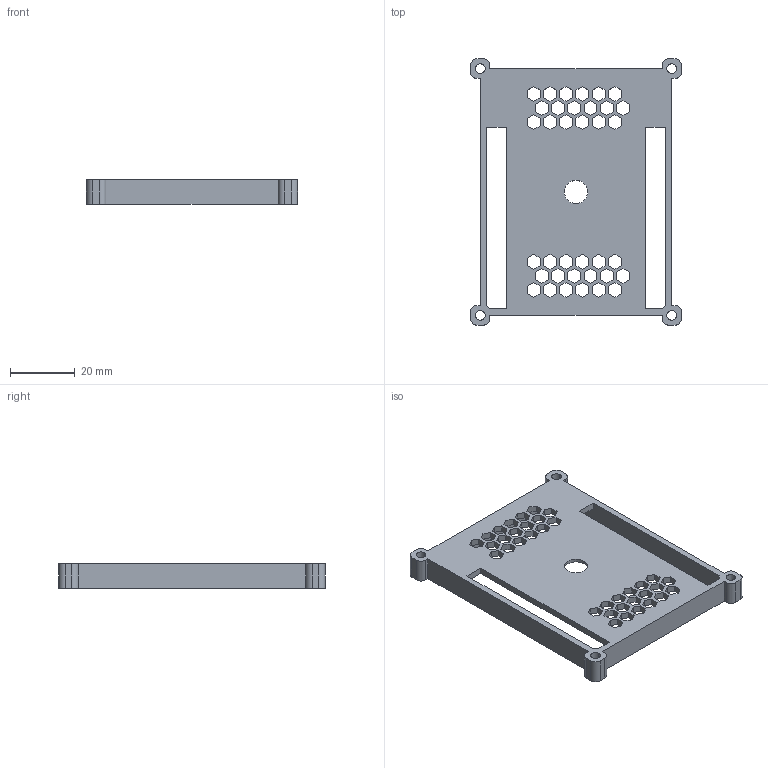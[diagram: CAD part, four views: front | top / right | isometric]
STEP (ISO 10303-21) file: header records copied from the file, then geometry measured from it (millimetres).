
FILE_DESCRIPTION (( 'STEP AP214' ), '1' );
FILE_NAME ('EnclosureCover.STEP', '2021-10-29T12:32:29', ( '' ), ( '' ), 'SwSTEP 2.0', 'SolidWorks 2019', '' );
FILE_SCHEMA (( 'AUTOMOTIVE_DESIGN' ));
Length unit declared in the file: millimetre
Products named in the file (1): EnclosureCover
Bounding box: 65 x 82 x 7.5 mm (x, y, z)
Volume: 9464.1 mm3; surface area: 12454.4 mm2
Topology: 1 solids, 1 shells, 314 faces, 912 edges, 608 vertices
Faces by surface type: plane 280, cylinder 34
Entity records: 10410 total; most frequent: CARTESIAN_POINT 1835, ORIENTED_EDGE 1824, DIRECTION 1610, EDGE_CURVE 912, LINE 844, VECTOR 844, VERTEX_POINT 608, EDGE_LOOP 408
